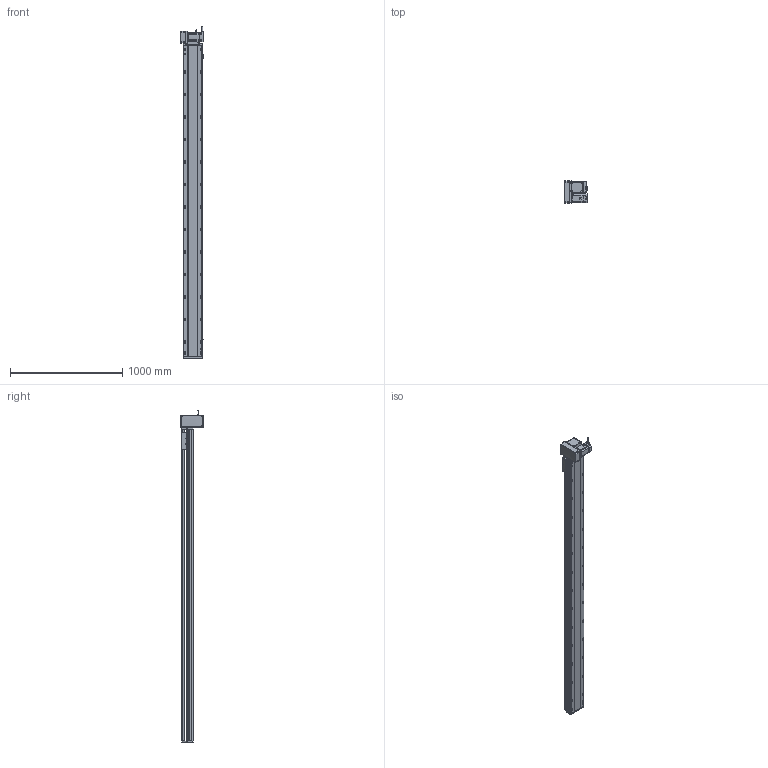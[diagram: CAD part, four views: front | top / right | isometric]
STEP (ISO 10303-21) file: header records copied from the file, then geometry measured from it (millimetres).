
FILE_DESCRIPTION (( 'STEP AP214' ), '1' );
FILE_NAME ('RTB17S-XX-2500-LM-M75-C4.STEP', '2025-12-12T00:46:54', ( '' ), ( '' ), 'SwSTEP 2.0', 'SolidWorks 2018', '' );
FILE_SCHEMA (( 'AUTOMOTIVE_DESIGN' ));
Length unit declared in the file: millimetre
Products named in the file (15): RTB17S-L-001-耜醱啣^RTB17S-XX-XX-LM-M75-C4; 750W萇儂^RTB17S-XX-XX-LM-M75-C4; RTB17-R-011菁釱^RTB17S-XX-XX-LM-M75-C4; RTB22S-GY-005P^RTB17S-LM-々湍釱蚾饜-750W_RTB17S-XX-XX-LM-M75-C4; EE672^RTB17S-XX-XX-LM-M75-C4; RTB17S-L-007奻裔^RTB17S-XX-XX-LM-M75-C4; RTB17S-L-014-T20-P75--々湍釱^RTB17S-LM-々湍釱蚾饜-750W_RTB17S-XX-XX-LM-M75-C4; RTB17S-LM-々湍釱蚾饜-750W^RTB17S-XX-XX-LM-M75-C4; RTB17S-XX-2500-LM-M75-C4; RTB22S-GY-017P^RTB17S-LM-々湍釱蚾饜-750W_RTB17S-XX-XX-LM-M75-C4; RTB17S-賑釱^RTB17S-XX-XX-LM-M75-C4; RTH13-BL-012覜茼え俋离^RTB17S-賑釱_RTB17S-XX-XX-LM-M75-C4; RTB17S-L-004-賑釱^RTB17S-賑釱_RTB17S-XX-XX-LM-M75-C4; RTB22S-GY-008-M75--萇儂啣^RTB17S-LM-々湍釱蚾饜-750W_RTB17S-XX-XX-LM-M75-C4; RTB22S-GY-018P^RTB17S-LM-々湍釱蚾饜-750W_RTB17S-XX-XX-LM-M75-C4
Assembly tree (17 placements, depth 3):
  RTB17S-XX-2500-LM-M75-C4
    RTB17-R-011菁釱^RTB17S-XX-XX-LM-M75-C4
    EE672^RTB17S-XX-XX-LM-M75-C4  x3
    RTB17S-L-001-耜醱啣^RTB17S-XX-XX-LM-M75-C4
    RTB17S-賑釱^RTB17S-XX-XX-LM-M75-C4
      RTB17S-L-004-賑釱^RTB17S-賑釱_RTB17S-XX-XX-LM-M75-C4
      RTH13-BL-012覜茼え俋离^RTB17S-賑釱_RTB17S-XX-XX-LM-M75-C4
    RTB17S-L-007奻裔^RTB17S-XX-XX-LM-M75-C4
    750W萇儂^RTB17S-XX-XX-LM-M75-C4
    RTB17S-LM-々湍釱蚾饜-750W^RTB17S-XX-XX-LM-M75-C4
      RTB17S-L-014-T20-P75--々湍釱^RTB17S-LM-々湍釱蚾饜-750W_RTB17S-XX-XX-LM-M75-C4
      RTB22S-GY-005P^RTB17S-LM-々湍釱蚾饜-750W_RTB17S-XX-XX-LM-M75-C4
      RTB22S-GY-017P^RTB17S-LM-々湍釱蚾饜-750W_RTB17S-XX-XX-LM-M75-C4  x2
      RTB22S-GY-008-M75--萇儂啣^RTB17S-LM-々湍釱蚾饜-750W_RTB17S-XX-XX-LM-M75-C4
      RTB22S-GY-018P^RTB17S-LM-々湍釱蚾饜-750W_RTB17S-XX-XX-LM-M75-C4
Bounding box: 210.4 x 200 x 2952.2 mm (x, y, z)
Volume: 21575256.2 mm3; surface area: 3914312.2 mm2
Topology: 17 solids, 17 shells, 2217 faces, 6214 edges, 4022 vertices
Faces by surface type: plane 986, cylinder 815, bspline 294, cone 110, sphere 8, torus 4
Entity records: 64246 total; most frequent: CARTESIAN_POINT 19078, ORIENTED_EDGE 9272, DIRECTION 8582, EDGE_CURVE 4636, AXIS2_PLACEMENT_3D 3042, VERTEX_POINT 3026, LINE 2498, VECTOR 2498
